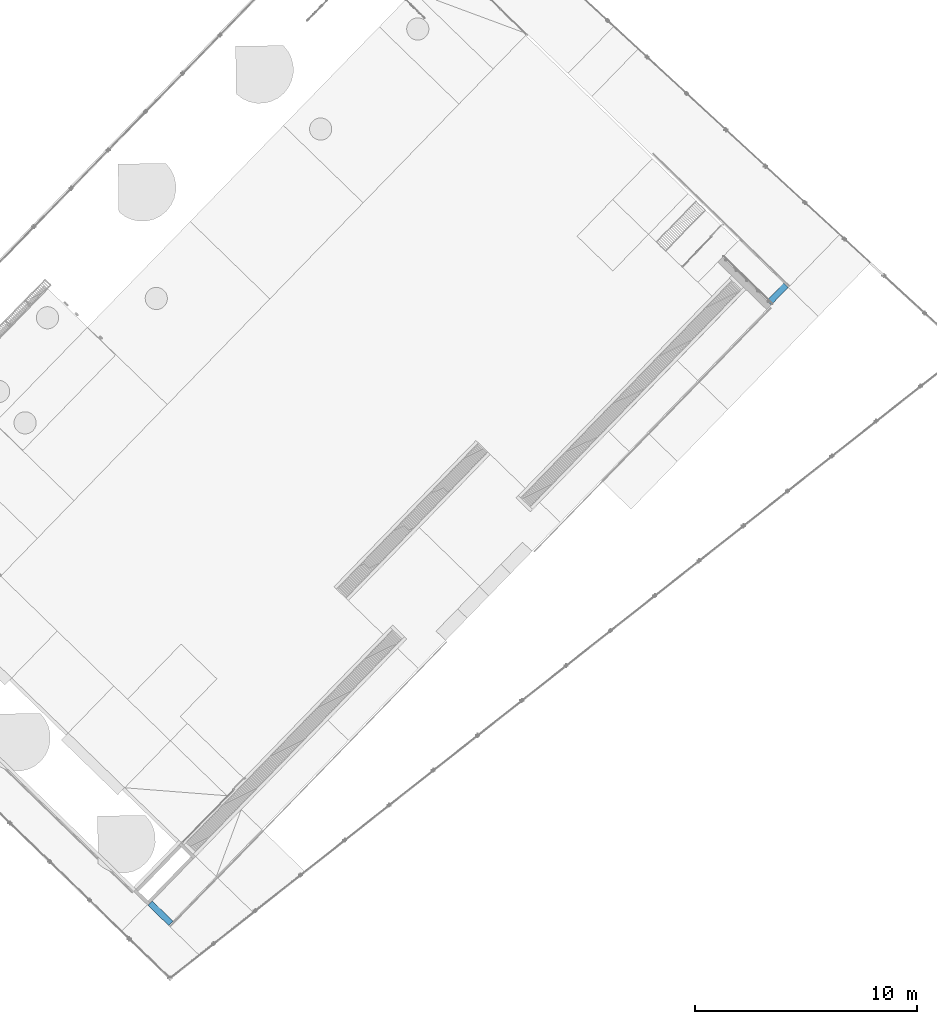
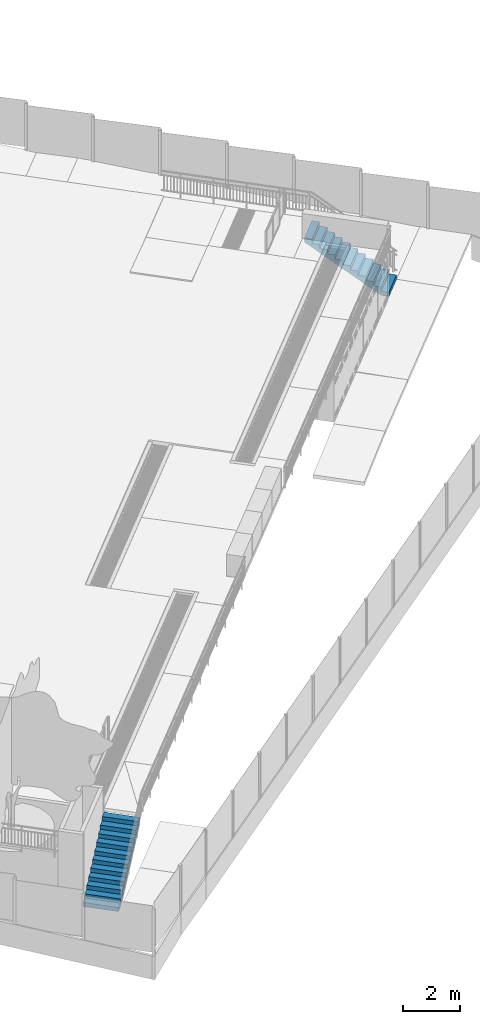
# One storey, part 22 of 37: 2 stair flights, 2 elements without a shape of their own.
"""IFC2X3 building model written with IfcOpenShell, lengths in centimetres."""

from ifc_helpers import new_model, entity, si_unit, converted_unit, derived_unit, direction, frame, origin, place, context, subcontext, project, spatial, faceted_brep, material, element, aggregate, save


model = new_model("IFC2X3")

# Units and contexts
model_context = context("Model", 3, precision=0.001, world=origin(), true_north=direction((0.717475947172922, 0.696583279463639)))
body_context = subcontext(model_context, "Body", "Model", "MODEL_VIEW")
ifc_project = project(units=[si_unit("LENGTHUNIT", "METRE", prefix="CENTI"), si_unit("AREAUNIT", "SQUARE_METRE"), si_unit("VOLUMEUNIT", "CUBIC_METRE"), converted_unit("PLANEANGLEUNIT", "DEGREE", entity("IfcRatioMeasure", 0.0174532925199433), si_unit("PLANEANGLEUNIT", "RADIAN"), dimensions=[0, 0, 0, 0, 0, 0, 0]), si_unit("MASSUNIT", "GRAM", prefix="KILO"), derived_unit("MASSDENSITYUNIT", [(si_unit("MASSUNIT", "GRAM", prefix="KILO"), 1), (si_unit("LENGTHUNIT", "METRE"), -3)]), si_unit("TIMEUNIT", "SECOND"), si_unit("FREQUENCYUNIT", "HERTZ"), si_unit("THERMODYNAMICTEMPERATUREUNIT", "DEGREE_CELSIUS"), derived_unit("THERMALTRANSMITTANCEUNIT", [(si_unit("MASSUNIT", "GRAM", prefix="KILO"), 1), (si_unit("THERMODYNAMICTEMPERATUREUNIT", "KELVIN"), -1), (si_unit("TIMEUNIT", "SECOND"), -3)]), derived_unit("VOLUMETRICFLOWRATEUNIT", [(si_unit("LENGTHUNIT", "METRE"), 3), (si_unit("TIMEUNIT", "SECOND"), -1)]), si_unit("ELECTRICCURRENTUNIT", "AMPERE"), si_unit("ELECTRICVOLTAGEUNIT", "VOLT"), si_unit("POWERUNIT", "WATT"), si_unit("FORCEUNIT", "NEWTON", prefix="KILO"), si_unit("ILLUMINANCEUNIT", "LUX"), si_unit("LUMINOUSFLUXUNIT", "LUMEN"), si_unit("LUMINOUSINTENSITYUNIT", "CANDELA"), derived_unit("USERDEFINED", [(si_unit("MASSUNIT", "GRAM", prefix="KILO"), -1), (si_unit("LENGTHUNIT", "METRE"), -2), (si_unit("TIMEUNIT", "SECOND"), 3), (si_unit("LUMINOUSFLUXUNIT", "LUMEN"), 1)]), derived_unit("LINEARVELOCITYUNIT", [(si_unit("LENGTHUNIT", "METRE"), 1), (si_unit("TIMEUNIT", "SECOND"), -1)]), si_unit("PRESSUREUNIT", "PASCAL"), derived_unit("USERDEFINED", [(si_unit("LENGTHUNIT", "METRE"), -2), (si_unit("MASSUNIT", "GRAM", prefix="KILO"), 1), (si_unit("TIMEUNIT", "SECOND"), -2)])], contexts=[model_context])

# Site, building, storey
site_placement = place(None, frame((0.0, 0.0, 0.0), z_axis=(0.0, 0.0, 1.0), x_axis=(0.696583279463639, 0.717475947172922, 0.0)))
site = spatial("IfcSite", under=ifc_project, at=site_placement, Name="Surface", CompositionType="ELEMENT")
building_placement = place(site_placement, origin())
building = spatial("IfcBuilding", under=site, at=building_placement, CompositionType="ELEMENT")
storey_placement = place(building_placement, origin())
storey = spatial("IfcBuildingStorey", under=building, at=storey_placement, Name="Nivel 0.00", CompositionType="ELEMENT", Elevation=0.0)

# Stair, stair flight
stair_1_placement = place(storey_placement, origin())
stair_1 = element("IfcStair", 1, at=stair_1_placement, inside=storey, Name="Cast-In-Place Stair:Stair", ObjectType="Cast-In-Place Stair:Monolithic Stair", ShapeType="NOTDEFINED")
ifc_material = material(Name="Concrete, Cast-in-Place gray")
stair_flight_1_placement = place(stair_1_placement, frame((1690.55253341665, -1564.89746350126, 0.0)))
stair_flight_1 = element("IfcStairFlight", 2, at=stair_flight_1_placement, material=ifc_material, Name="Cast-In-Place Stair:Stair:4918851 Run 1", ObjectType="Cast-In-Place Stair:Monolithic Stair", NumberOfRiser=12, NumberOfTreads=11, RiserHeight=0.596019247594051, TreadLength=0.902230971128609, context=body_context, shape_type="Brep", body=[
    faceted_brep([(0.0, 28.0007448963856, -47.8333333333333), (0.0, 0.0, -47.8333333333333), (110.000029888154, 0.0, -47.8333333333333), (110.000029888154, 28.0007448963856, -47.8333333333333), (0.0, 28.0007448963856, -65.7134150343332), (0.0, 27.5590359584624, -66.0), (0.0, 0.0, -66.0), (110.000029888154, 0.0, -66.0), (110.000029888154, 27.5590359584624, -66.0), (110.000029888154, 28.0007448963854, -65.7134150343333), (0.0, 56.0007448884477, -29.6666666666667), (0.0, 28.0007448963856, -29.6666666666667), (110.000029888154, 28.0007448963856, -29.6666666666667), (110.000029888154, 56.0007448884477, -29.6666666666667), (0.0, 56.0007448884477, -47.5467483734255), (110.000029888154, 56.0007448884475, -47.5467483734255), (0.0, 84.0007448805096, -11.5), (0.0, 56.0007448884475, -11.5), (110.000029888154, 56.0007448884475, -11.5), (110.000029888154, 84.0007448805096, -11.5), (0.0, 84.0007448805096, -29.380081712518), (110.000029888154, 84.0007448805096, -29.380081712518), (0.0, 112.000744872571, 6.66666666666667), (0.0, 84.0007448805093, 6.66666666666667), (110.000029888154, 84.0007448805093, 6.66666666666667), (110.000029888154, 112.000744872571, 6.66666666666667), (0.0, 112.000744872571, -11.2134150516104), (110.000029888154, 112.000744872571, -11.2134150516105), (0.0, 308.0, 133.833333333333), (0.0, 280.000744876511, 133.833333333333), (110.000029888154, 280.000744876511, 133.833333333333), (110.000029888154, 308.0, 133.833333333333), (0.0, 308.0, 115.952768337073), (0.0, 280.000744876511, 97.7865849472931), (0.0, 280.000744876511, 115.666666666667), (110.000029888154, 280.000744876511, 115.666666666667), (110.000029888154, 280.000744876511, 97.7865849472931), (110.000029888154, 308.0, 115.952768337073), (0.0, 140.000744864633, 6.95325160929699), (0.0, 168.000744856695, 25.1199182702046), (0.0, 196.000744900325, 43.2865849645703), (0.0, 224.000744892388, 61.4532516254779), (0.0, 252.000744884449, 79.6199182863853), (110.000029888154, 252.000744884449, 79.6199182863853), (110.000029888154, 224.000744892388, 61.4532516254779), (110.000029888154, 196.000744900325, 43.2865849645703), (110.000029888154, 168.000744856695, 25.1199182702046), (110.000029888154, 140.000744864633, 6.95325160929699), (0.0, 140.000744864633, 24.8333333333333), (0.0, 112.000744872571, 24.8333333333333), (110.000029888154, 112.000744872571, 24.8333333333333), (110.000029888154, 140.000744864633, 24.8333333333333), (0.0, 168.000744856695, 43.0), (0.0, 140.000744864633, 43.0), (110.000029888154, 140.000744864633, 43.0), (110.000029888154, 168.000744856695, 43.0), (0.0, 196.000744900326, 61.1666666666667), (0.0, 168.000744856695, 61.1666666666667), (110.000029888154, 168.000744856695, 61.1666666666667), (110.000029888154, 196.000744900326, 61.1666666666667), (0.0, 224.000744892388, 79.3333333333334), (0.0, 196.000744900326, 79.3333333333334), (110.000029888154, 196.000744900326, 79.3333333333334), (110.000029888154, 224.000744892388, 79.3333333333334), (0.0, 252.000744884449, 97.5), (0.0, 224.000744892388, 97.5), (110.000029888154, 224.000744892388, 97.5), (110.000029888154, 252.000744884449, 97.5), (0.0, 252.00074488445, 115.666666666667), (110.000029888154, 252.00074488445, 115.666666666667)], [[[0, 1, 2, 3]], [[1, 0, 4, 5, 6]], [[2, 1, 6, 7]], [[3, 2, 7, 8, 9]], [[10, 11, 12, 13]], [[11, 10, 14, 4, 0]], [[0, 3, 12, 11]], [[13, 12, 3, 9, 15]], [[16, 17, 18, 19]], [[17, 16, 20, 14, 10]], [[10, 13, 18, 17]], [[19, 18, 13, 15, 21]], [[22, 23, 24, 25]], [[23, 22, 26, 20, 16]], [[16, 19, 24, 23]], [[25, 24, 19, 21, 27]], [[28, 29, 30, 31]], [[29, 28, 32, 33, 34]], [[34, 35, 30, 29]], [[31, 30, 35, 36, 37]], [[28, 31, 37, 32]], [[7, 6, 5, 8]], [[8, 5, 4, 14, 20, 26, 38, 39, 40, 41, 42, 33, 32, 37, 36, 43, 44, 45, 46, 47, 27, 21, 15, 9]], [[48, 49, 50, 51]], [[49, 48, 38, 26, 22]], [[22, 25, 50, 49]], [[51, 50, 25, 27, 47]], [[52, 53, 54, 55]], [[53, 52, 39, 38, 48]], [[48, 51, 54, 53]], [[55, 54, 51, 47, 46]], [[56, 57, 58, 59]], [[57, 56, 40, 39, 52]], [[52, 55, 58, 57]], [[59, 58, 55, 46, 45]], [[60, 61, 62, 63]], [[61, 60, 41, 40, 56]], [[56, 59, 62, 61]], [[63, 62, 59, 45, 44]], [[64, 65, 66, 67]], [[65, 64, 42, 41, 60]], [[60, 63, 66, 65]], [[67, 66, 63, 44, 43]], [[34, 68, 69, 35]], [[68, 34, 33, 42, 64]], [[64, 67, 69, 68]], [[35, 69, 67, 43, 36]]]),
])
aggregate(stair_1, [stair_flight_1])

stair_2_placement = place(storey_placement, origin())
stair_2 = element("IfcStair", 3, at=stair_2_placement, inside=storey, Name="Cast-In-Place Stair:Stair", ObjectType="Cast-In-Place Stair:Monolithic Stair", ShapeType="NOTDEFINED")
stair_flight_2_placement = place(stair_2_placement, frame((-2213.75711159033, -1564.89941239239, 0.0)))
stair_flight_2 = element("IfcStairFlight", 4, at=stair_flight_2_placement, material=ifc_material, Name="Cast-In-Place Stair:Stair:4918884 Run 1", ObjectType="Cast-In-Place Stair:Monolithic Stair", NumberOfRiser=12, NumberOfTreads=11, RiserHeight=0.590551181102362, TreadLength=0.902230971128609, context=body_context, shape_type="Brep", body=[
    faceted_brep([(27.9999564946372, 129.853409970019, -48.0), (0.0, 129.853409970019, -48.0), (0.0, 0.0, -48.0), (27.9999564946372, 0.0, -48.0), (27.9999564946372, 129.853409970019, -65.8321533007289), (27.7388616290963, 129.853409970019, -66.0), (0.0, 129.853409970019, -66.0), (0.0, 0.0, -66.0), (27.7388616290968, 0.0, -66.0), (27.9999564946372, 0.0, -65.8321533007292), (55.9999564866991, 129.853409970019, -30.0), (27.9999564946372, 129.853409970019, -30.0), (27.9999564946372, 0.0, -30.0), (55.9999564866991, 0.0, -30.0), (55.9999564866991, 129.853409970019, -47.8321533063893), (55.9999564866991, 0.0, -47.8321533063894), (83.9999564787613, 129.853409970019, -12.0), (55.9999564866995, 129.853409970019, -12.0), (55.9999564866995, 0.0, -12.0), (83.9999564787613, 0.0, -12.0), (83.9999564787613, 129.853409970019, -29.8321533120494), (83.9999564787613, 0.0, -29.8321533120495), (111.999956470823, 129.853409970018, 6.0), (83.9999564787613, 129.853409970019, 6.0), (83.9999564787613, 0.0, 6.0), (111.999956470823, 0.0, 6.0), (111.999956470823, 129.853409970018, -11.8321533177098), (111.999956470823, 0.0, -11.8321533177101), (139.999956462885, 129.853409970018, 24.0), (111.999956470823, 129.853409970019, 24.0), (111.999956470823, 0.0, 24.0), (139.999956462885, 0.0, 24.0), (139.999956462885, 129.853409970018, 6.16784667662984), (139.999956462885, 0.0, 6.16784667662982), (167.999956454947, 129.853409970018, 42.0), (139.999956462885, 129.853409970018, 42.0), (139.999956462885, 0.0, 42.0), (167.999956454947, 0.0, 42.0), (167.999956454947, 129.853409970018, 24.1678466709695), (167.999956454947, 0.0, 24.1678466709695), (195.999956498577, 129.853409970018, 60.0), (167.999956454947, 129.853409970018, 60.0), (167.999956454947, 0.0, 60.0), (195.999956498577, 0.0, 60.0), (195.999956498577, 129.853409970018, 42.1678466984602), (195.999956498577, 0.0, 42.16784669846), (223.999956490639, 129.853409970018, 78.0), (195.999956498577, 129.853409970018, 78.0), (195.999956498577, 0.0, 78.0), (223.999956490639, 0.0, 78.0), (223.999956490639, 129.853409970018, 60.1678466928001), (223.99995649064, 0.0, 60.1678466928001), (251.999956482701, 129.853409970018, 96.0), (223.999956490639, 129.853409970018, 96.0), (223.999956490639, 0.0, 96.0), (251.999956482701, 0.0, 96.0), (251.999956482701, 129.853409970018, 78.1678466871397), (251.999956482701, 0.0, 78.1678466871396), (279.999956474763, 129.853409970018, 114.0), (251.999956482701, 129.853409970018, 114.0), (251.999956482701, 0.0, 114.0), (279.999956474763, 0.0, 114.0), (279.999956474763, 129.853409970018, 96.1678466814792), (279.999956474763, 0.0, 96.1678466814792), (308.0, 129.853409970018, 132.0), (279.999956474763, 129.853409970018, 132.0), (279.999956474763, 0.0, 132.0), (308.0, 0.0, 132.0), (308.0, 129.853409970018, 114.167874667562), (308.0, 0.0, 114.167874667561)], [[[0, 1, 2, 3]], [[1, 0, 4, 5, 6]], [[2, 1, 6, 7]], [[3, 2, 7, 8, 9]], [[10, 11, 12, 13]], [[11, 10, 14, 4, 0]], [[0, 3, 12, 11]], [[13, 12, 3, 9, 15]], [[16, 17, 18, 19]], [[17, 16, 20, 14, 10]], [[10, 13, 18, 17]], [[19, 18, 13, 15, 21]], [[22, 23, 24, 25]], [[23, 22, 26, 20, 16]], [[16, 19, 24, 23]], [[25, 24, 19, 21, 27]], [[28, 29, 30, 31]], [[29, 28, 32, 26, 22]], [[22, 25, 30, 29]], [[31, 30, 25, 27, 33]], [[34, 35, 36, 37]], [[35, 34, 38, 32, 28]], [[28, 31, 36, 35]], [[37, 36, 31, 33, 39]], [[40, 41, 42, 43]], [[41, 40, 44, 38, 34]], [[34, 37, 42, 41]], [[43, 42, 37, 39, 45]], [[46, 47, 48, 49]], [[47, 46, 50, 44, 40]], [[40, 43, 48, 47]], [[49, 48, 43, 45, 51]], [[52, 53, 54, 55]], [[53, 52, 56, 50, 46]], [[46, 49, 54, 53]], [[55, 54, 49, 51, 57]], [[58, 59, 60, 61]], [[59, 58, 62, 56, 52]], [[52, 55, 60, 59]], [[61, 60, 55, 57, 63]], [[64, 65, 66, 67]], [[65, 64, 68, 62, 58]], [[58, 61, 66, 65]], [[67, 66, 61, 63, 69]], [[64, 67, 69, 68]], [[7, 6, 5, 8]], [[8, 5, 4, 14, 20, 26, 32, 38, 44, 50, 56, 62, 68, 69, 63, 57, 51, 45, 39, 33, 27, 21, 15, 9]]]),
])
aggregate(stair_2, [stair_flight_2])

save(model, "model.ifc")
